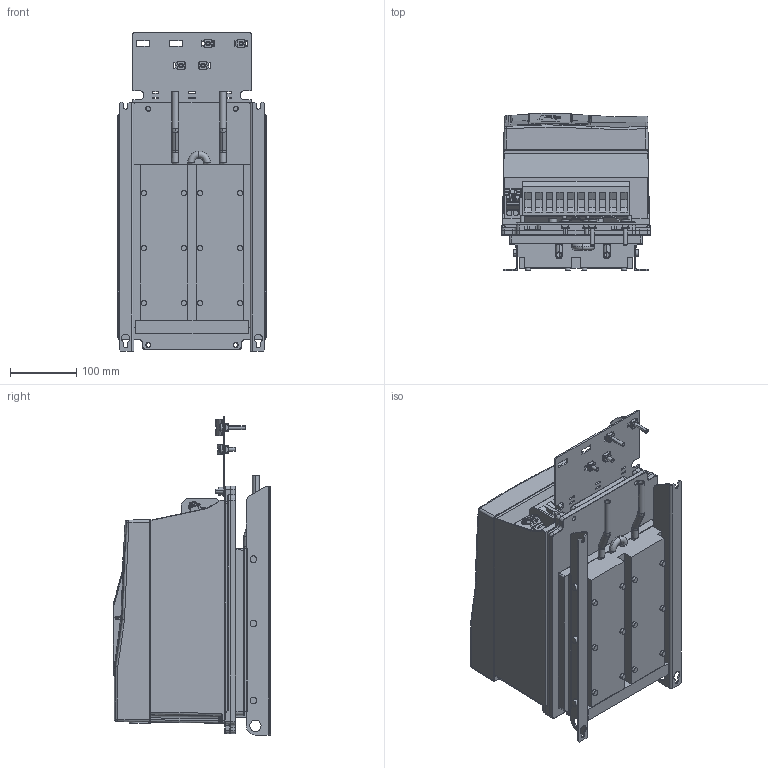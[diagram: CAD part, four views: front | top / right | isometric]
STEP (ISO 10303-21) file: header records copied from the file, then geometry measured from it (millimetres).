
FILE_DESCRIPTION (( 'STEP AP214' ), '1' );
FILE_NAME ('F6-4TW0-A031.STEP', '2020-12-09T12:07:15', ( '' ), ( '' ), 'SwSTEP 2.0', 'SolidWorks 2019', '' );
FILE_SCHEMA (( 'AUTOMOTIVE_DESIGN' ));
Length unit declared in the file: millimetre
Products named in the file (14): 10061791_000; F6-4TW0-A031; 10032600_000_Kundenmodell; 10045828_000_Basis Leistungsteil + Zubeh”r TW0 (Kundenmodell); 10059765_000; 10035736_000_Kundenmodell; 10063070_000; 10061644_000_Deckel (Kundenmodell); 10059764_000_Blindabdeckung (Kundenmodell); 10001537_000; 10044453_000_Schirmung (Kundenmodell); 10058448_000; 10059763_000; 10061645_000
Assembly tree (15 placements, depth 4):
  F6-4TW0-A031
    10045828_000_Basis Leistungsteil + Zubeh”r TW0 (Kundenmodell)
      10061791_000
    10032600_000_Kundenmodell
      10061644_000_Deckel (Kundenmodell)
        10061645_000
      10001537_000  x3
      10058448_000
    10035736_000_Kundenmodell
      10059764_000_Blindabdeckung (Kundenmodell)
        10059765_000
      10059763_000
    10044453_000_Schirmung (Kundenmodell)
      10063070_000
Bounding box: 224 x 237.2 x 479.7 mm (x, y, z)
Volume: 14703189.6 mm3; surface area: 956999.5 mm2
Topology: 18 solids, 37 shells, 3719 faces, 9927 edges, 6334 vertices
Faces by surface type: plane 1708, cylinder 1040, bspline 577, torus 196, cone 142, sphere 56
Entity records: 138102 total; most frequent: CARTESIAN_POINT 49779, ORIENTED_EDGE 19364, DIRECTION 16684, EDGE_CURVE 9682, VERTEX_POINT 6216, AXIS2_PLACEMENT_3D 5617, LINE 5450, VECTOR 5450
